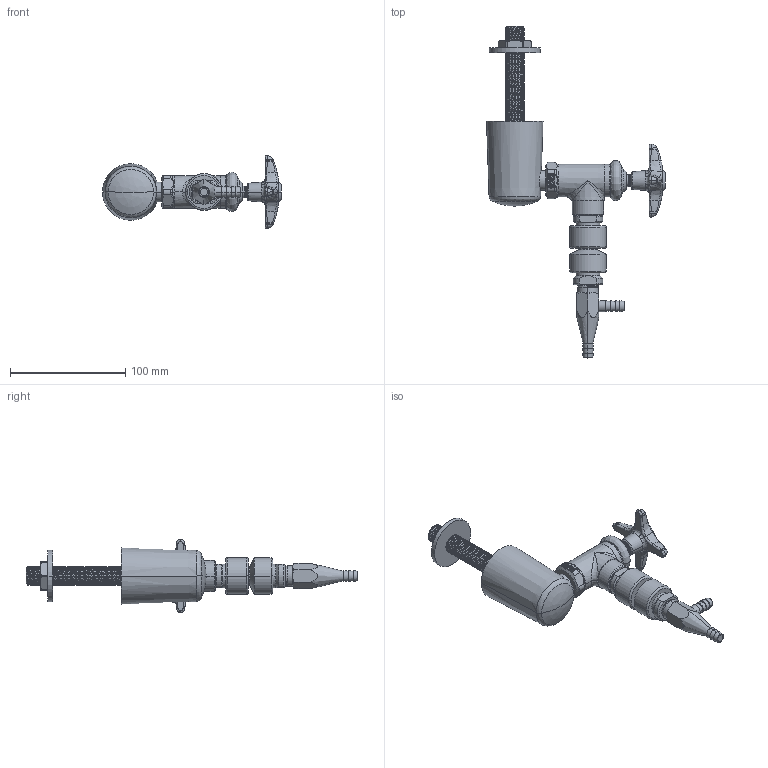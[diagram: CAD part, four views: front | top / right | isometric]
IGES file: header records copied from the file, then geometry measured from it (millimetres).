
Start section:  PTC IGES file: LWV2-C63-10.igs
Global section: file name: LWV2-C63-10.igs; native system: Creo Parametric by PTC Inc.; preprocessor: 2014500; author: usch_engrender; organization: Unknown; date: 20151113.094316; units: inch
Bounding box: 155.27 x 288.04 x 63.41 mm (x, y, z)
Volume: 240921.3 mm3; surface area: 58643.7 mm2
Topology: 1 solids, 3 shells, 866 faces, 2087 edges, 1260 vertices
Faces by surface type: revolution 444, bspline 422
